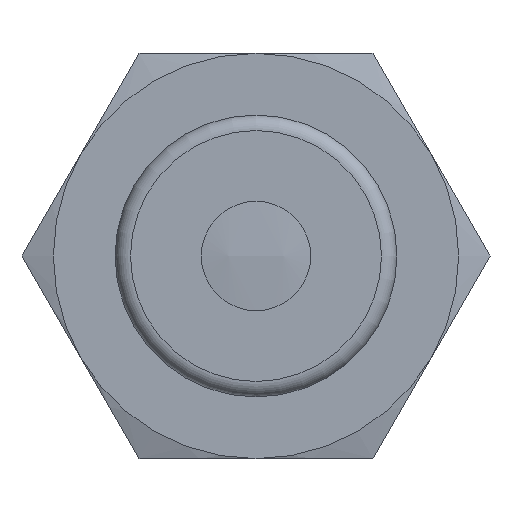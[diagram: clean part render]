
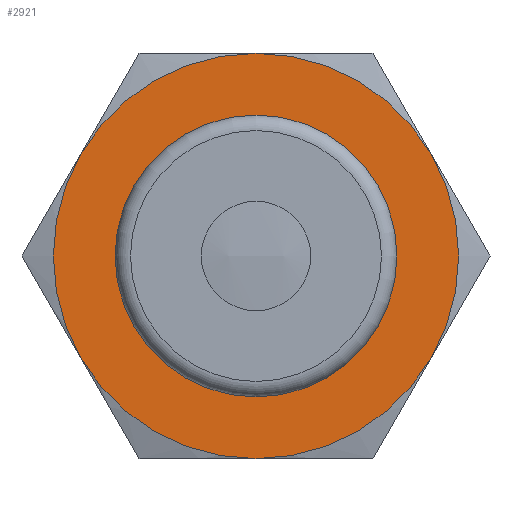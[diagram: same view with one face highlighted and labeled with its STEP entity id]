
A CAD part, left-side view. The second image highlights one B-rep face of the part: STEP entity #2921.
In plain terms, the highlighted planar face has unit normal (-1, 0, 0).
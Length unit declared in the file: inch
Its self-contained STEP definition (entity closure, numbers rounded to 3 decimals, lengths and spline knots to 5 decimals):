
#2284=CARTESIAN_POINT('',(-0.63,0.565,0.));
#2285=VERTEX_POINT('',#2284);
#2286=CARTESIAN_POINT('',(-0.63,0.0,0.));
#2287=DIRECTION('',(1.0,0.0,0.0));
#2288=DIRECTION('',(0.0,1.0,0.0));
#2289=AXIS2_PLACEMENT_3D('',#2286,#2287,#2288);
#2290=CIRCLE('',#2289,0.565);
#2291=EDGE_CURVE('',#2285,#2285,#2290,.T.);
#2327=CARTESIAN_POINT('',(-0.63,0.70365,0.40625));
#2328=VERTEX_POINT('',#2327);
#2409=CARTESIAN_POINT('',(-0.63,0.70365,-0.40625));
#2410=VERTEX_POINT('',#2409);
#2473=CARTESIAN_POINT('',(-0.63,0.0,0.8125));
#2474=VERTEX_POINT('',#2473);
#2568=CARTESIAN_POINT('',(-0.63,0.0,-0.8125));
#2569=VERTEX_POINT('',#2568);
#2641=CARTESIAN_POINT('',(-0.63,-0.70365,-0.40625));
#2642=VERTEX_POINT('',#2641);
#2705=CARTESIAN_POINT('',(-0.63,-0.70365,0.40625));
#2706=VERTEX_POINT('',#2705);
#2743=CARTESIAN_POINT('',(-0.63,0.0,0.));
#2744=DIRECTION('',(-1.0,0.0,0.0));
#2745=DIRECTION('',(0.0,0.0,1.0));
#2746=AXIS2_PLACEMENT_3D('',#2743,#2744,#2745);
#2747=CIRCLE('',#2746,0.8125);
#2748=EDGE_CURVE('',#2410,#2569,#2747,.T.);
#2760=CARTESIAN_POINT('',(-0.63,0.0,0.));
#2761=DIRECTION('',(-1.0,0.0,0.0));
#2762=DIRECTION('',(0.0,0.0,1.0));
#2763=AXIS2_PLACEMENT_3D('',#2760,#2761,#2762);
#2764=CIRCLE('',#2763,0.8125);
#2765=EDGE_CURVE('',#2569,#2642,#2764,.T.);
#2777=CARTESIAN_POINT('',(-0.63,0.0,0.));
#2778=DIRECTION('',(-1.0,0.0,0.0));
#2779=DIRECTION('',(0.0,0.0,1.0));
#2780=AXIS2_PLACEMENT_3D('',#2777,#2778,#2779);
#2781=CIRCLE('',#2780,0.8125);
#2782=EDGE_CURVE('',#2642,#2706,#2781,.T.);
#2795=CARTESIAN_POINT('',(-0.63,0.0,0.));
#2796=DIRECTION('',(-1.0,0.0,0.0));
#2797=DIRECTION('',(0.0,0.0,1.0));
#2798=AXIS2_PLACEMENT_3D('',#2795,#2796,#2797);
#2799=CIRCLE('',#2798,0.8125);
#2800=EDGE_CURVE('',#2706,#2474,#2799,.T.);
#2812=CARTESIAN_POINT('',(-0.63,0.0,0.));
#2813=DIRECTION('',(-1.0,0.0,0.0));
#2814=DIRECTION('',(0.0,0.0,1.0));
#2815=AXIS2_PLACEMENT_3D('',#2812,#2813,#2814);
#2816=CIRCLE('',#2815,0.8125);
#2817=EDGE_CURVE('',#2474,#2328,#2816,.T.);
#2829=CARTESIAN_POINT('',(-0.63,0.0,0.));
#2830=DIRECTION('',(-1.0,0.0,0.0));
#2831=DIRECTION('',(0.0,0.0,1.0));
#2832=AXIS2_PLACEMENT_3D('',#2829,#2830,#2831);
#2833=CIRCLE('',#2832,0.8125);
#2834=EDGE_CURVE('',#2328,#2410,#2833,.T.);
#2905=CARTESIAN_POINT('',(-0.63,0.,0.));
#2906=DIRECTION('',(-1.0,0.0,0.0));
#2907=DIRECTION('',(0.0,0.0,1.0));
#2908=AXIS2_PLACEMENT_3D('',#2905,#2906,#2907);
#2909=PLANE('',#2908);
#2910=ORIENTED_EDGE('',*,*,#2748,.T.);
#2911=ORIENTED_EDGE('',*,*,#2765,.T.);
#2912=ORIENTED_EDGE('',*,*,#2782,.T.);
#2913=ORIENTED_EDGE('',*,*,#2800,.T.);
#2914=ORIENTED_EDGE('',*,*,#2817,.T.);
#2915=ORIENTED_EDGE('',*,*,#2834,.T.);
#2916=EDGE_LOOP('',(#2910,#2911,#2912,#2913,#2914,#2915));
#2917=FACE_OUTER_BOUND('',#2916,.T.);
#2918=ORIENTED_EDGE('',*,*,#2291,.T.);
#2919=EDGE_LOOP('',(#2918));
#2920=FACE_BOUND('',#2919,.T.);
#2921=ADVANCED_FACE('',(#2917,#2920),#2909,.T.);
